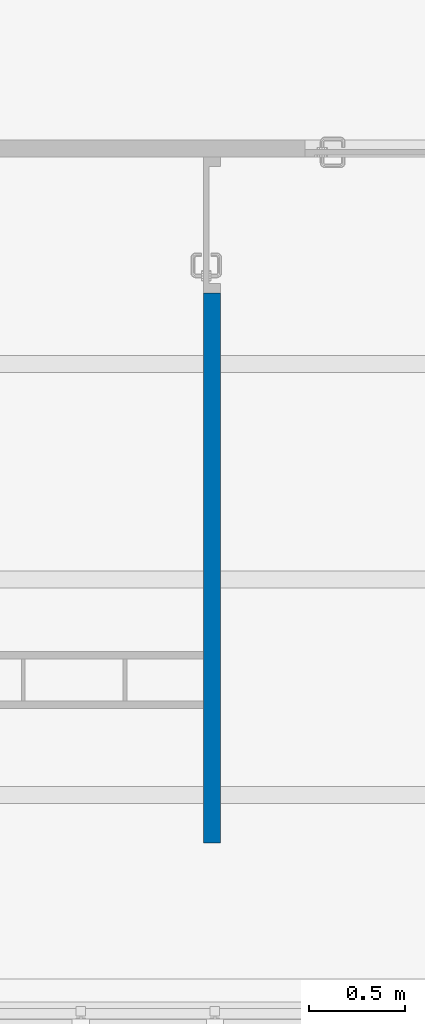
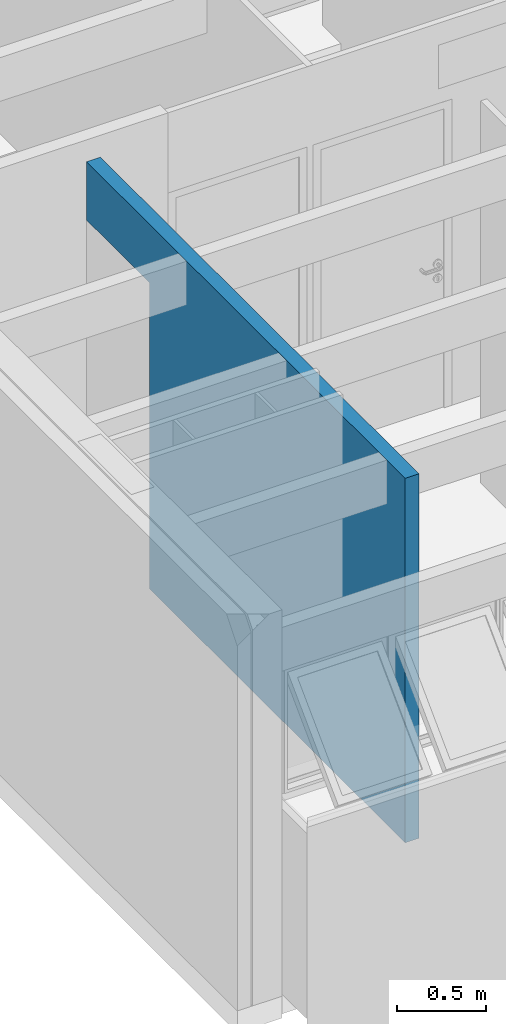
# One storey, part 18 of 37: 1 wall, 1 opening.
"""IFC2X3 building model written with IfcOpenShell, lengths in millimetres."""

from ifc_helpers import new_model, entity, si_unit, converted_unit, derived_unit, money_unit, direction, frame, origin_with_axes, origin_2d_with_axis, place, context, subcontext, project, spatial, polyline, rectangle, outline, extrude, material, layer, layer_set, layer_usage, type_object, element, save


model = new_model("IFC2X3")

# Units and contexts
model_context = context("Model", 3, precision=0.01, world=origin_with_axes(), true_north=direction((0.0, 1.0)))
body_context = subcontext(model_context, "Body", "Model", "MODEL_VIEW")
ifc_project = project(units=[si_unit("LENGTHUNIT", "METRE", prefix="MILLI"), si_unit("AREAUNIT", "SQUARE_METRE"), si_unit("VOLUMEUNIT", "CUBIC_METRE"), converted_unit("PLANEANGLEUNIT", "DEGREE", entity("IfcPlaneAngleMeasure", 0.0174532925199), si_unit("PLANEANGLEUNIT", "RADIAN"), dimensions=[0, 0, 0, 0, 0, 0, 0]), money_unit("USD"), converted_unit("TIMEUNIT", "Year", entity("IfcTimeMeasure", 31556926.0), si_unit("TIMEUNIT", "SECOND"), dimensions=[0, 0, 1, 0, 0, 0, 0]), si_unit("MASSUNIT", "GRAM", prefix="KILO"), si_unit("THERMODYNAMICTEMPERATUREUNIT", "DEGREE_CELSIUS"), si_unit("LUMINOUSINTENSITYUNIT", "LUMEN"), si_unit("ENERGYUNIT", "JOULE", prefix="MEGA"), derived_unit("THERMALCONDUCTANCEUNIT", [(si_unit("POWERUNIT", "WATT"), 1), (si_unit("LENGTHUNIT", "METRE"), -1), (si_unit("THERMODYNAMICTEMPERATUREUNIT", "KELVIN"), -1)]), derived_unit("SPECIFICHEATCAPACITYUNIT", [(si_unit("ENERGYUNIT", "JOULE"), 1), (si_unit("MASSUNIT", "GRAM", prefix="KILO"), -1), (si_unit("THERMODYNAMICTEMPERATUREUNIT", "KELVIN"), -1)]), derived_unit("MASSDENSITYUNIT", [(si_unit("MASSUNIT", "GRAM", prefix="KILO"), 1), (si_unit("VOLUMEUNIT", "CUBIC_METRE"), -1)])], contexts=[model_context])

# Site, building, storey
site_placement = place(None, origin_with_axes())
site = spatial("IfcSite", under=ifc_project, at=site_placement, Name="Local", CompositionType="ELEMENT")
building_placement = place(site_placement, origin_with_axes())
building = spatial("IfcBuilding", under=site, at=building_placement, Name="Construção", CompositionType="ELEMENT")
storey_placement = place(building_placement, origin_with_axes())
storey = spatial("IfcBuildingStorey", under=building, at=storey_placement, Name="Primeiro Pavimento", CompositionType="ELEMENT", Elevation=0.0)

# Wall, opening
ifc_material = material(Name="GENÉRICO - VEDAÇÃO EXTERNA")
ifc_layer = layer(ifc_material, 90.0, ventilated="UNKNOWN")
ifc_layer_set = layer_set([ifc_layer], Name="GENÉRICO - VEDAÇÃO EXTERNA 90")
ifc_layer_usage = layer_usage(ifc_layer_set, "AXIS2", "POSITIVE", 0.0)
wall_type = type_object("IfcWallType", Name="GENÉRICO - VEDAÇÃO EXTERNA 90", PredefinedType="NOTDEFINED")
wall_placement = place(storey_placement, frame((1730.0, 18814.7804333, 0.0), z_axis=(0.0, 0.0, 1.0), x_axis=(0.0, 1.0, 0.0)))
wall = element("IfcWallStandardCase", 1, at=wall_placement, inside=storey, type_object=wall_type, material=ifc_layer_usage, Name="APTO3-PAREDE-012", context=body_context, shape_type="SweptSolid", body=[
    extrude(outline(polyline([(0.0, 0.0), (3580.0, 0.0), (3580.0, 90.0), (0.0, 90.0), (0.0, 0.0)])), origin_with_axes(), (0.0, 0.0, 1.0), 2500.0),
])
opening_placement = place(wall_placement, frame((3225.0, 0.0, 0.0), z_axis=(0.0, 0.0, 1.0), x_axis=(1.0, 0.0, 0.0)))
element("IfcOpeningElement", 2, at=opening_placement, cuts=wall, Name="APTO3-PORTA-003", context=body_context, shape_type="SweptSolid", body=[
    extrude(rectangle(XDim=710.0, YDim=2100.0, at=origin_2d_with_axis()), frame((0.0, 90.0, 1050.0), z_axis=(0.0, -1.0, 0.0), x_axis=(1.0, 0.0, 0.0)), (0.0, 0.0, 1.0), 270.0),
])

save(model, "model.ifc")
